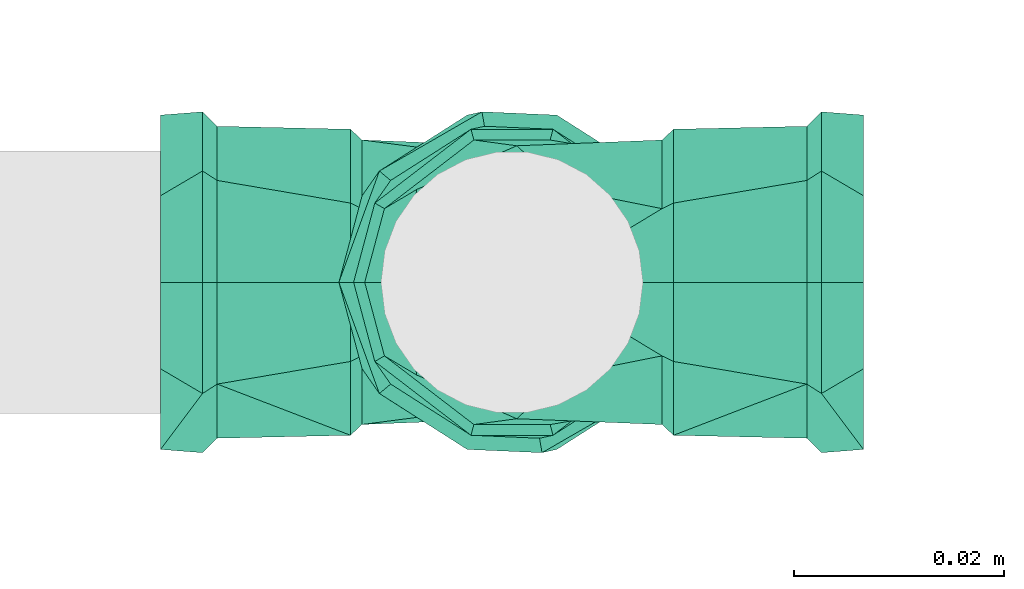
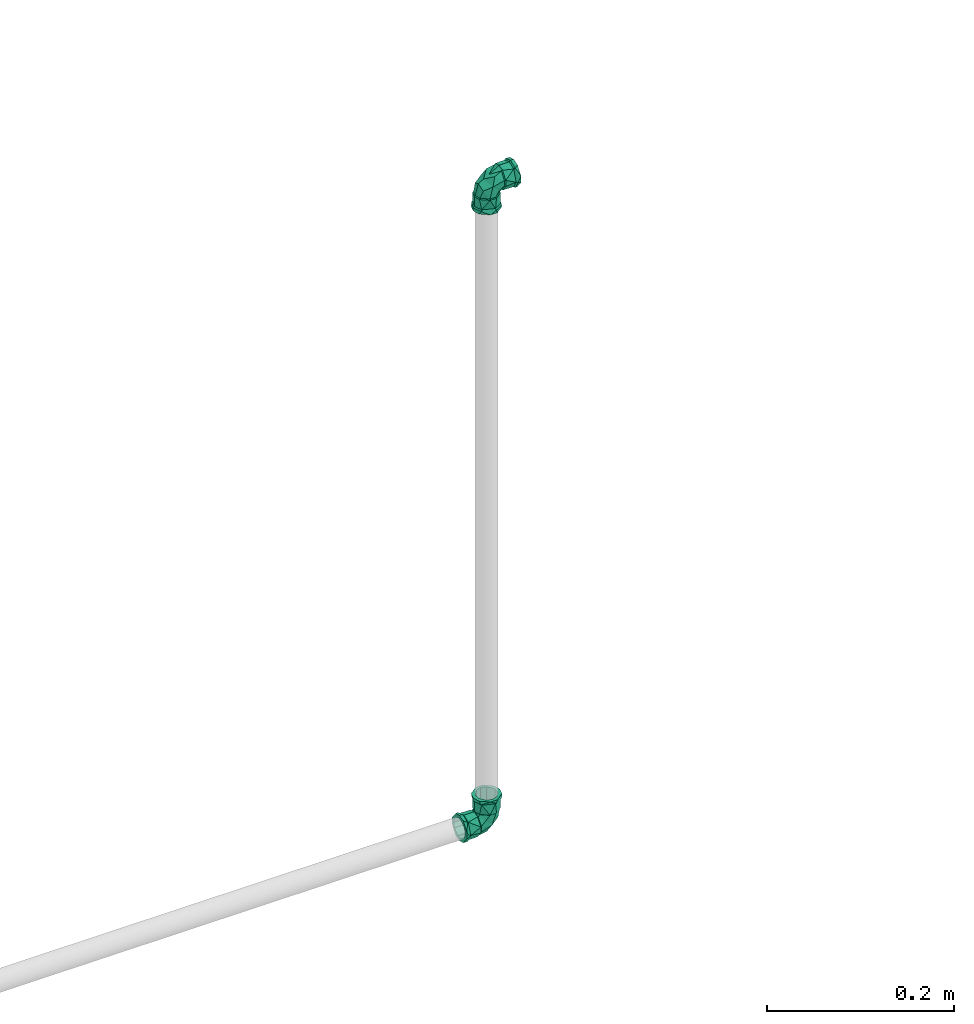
# One storey, part 338 of 589: 2 flow fittings.
"""IFC2X3 building model written with IfcOpenShell, lengths in millimetres."""

from ifc_helpers import new_model, entity, si_unit, converted_unit, derived_unit, direction, frame, origin, place, context, subcontext, project, spatial, faceted_brep, source, transform, mapped, material, type_object, type_shapes, element, save


model = new_model("IFC2X3")

# Units and contexts
model_context = context("Model", 3, precision=0.01, world=origin(), true_north=direction((6.123031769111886e-17, 1.0)))
body_context = subcontext(model_context, "Body", "Model", "MODEL_VIEW")
ifc_project = project(units=[si_unit("LENGTHUNIT", "METRE", prefix="MILLI"), si_unit("AREAUNIT", "SQUARE_METRE"), si_unit("VOLUMEUNIT", "CUBIC_METRE"), converted_unit("PLANEANGLEUNIT", "DEGREE", entity("IfcRatioMeasure", 0.017453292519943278), si_unit("PLANEANGLEUNIT", "RADIAN"), dimensions=[0, 0, 0, 0, 0, 0, 0]), si_unit("MASSUNIT", "GRAM", prefix="KILO"), derived_unit("MASSDENSITYUNIT", [(si_unit("MASSUNIT", "GRAM", prefix="KILO"), 1), (si_unit("LENGTHUNIT", "METRE"), -3)]), derived_unit("IONCONCENTRATIONUNIT", [(si_unit("MASSUNIT", "GRAM", prefix="KILO"), 1), (si_unit("LENGTHUNIT", "METRE"), -3)]), derived_unit("MOMENTOFINERTIAUNIT", [(si_unit("LENGTHUNIT", "METRE"), 4)]), si_unit("TIMEUNIT", "SECOND"), si_unit("FREQUENCYUNIT", "HERTZ"), si_unit("THERMODYNAMICTEMPERATUREUNIT", "DEGREE_CELSIUS"), derived_unit("THERMALTRANSMITTANCEUNIT", [(si_unit("MASSUNIT", "GRAM", prefix="KILO"), 1), (si_unit("THERMODYNAMICTEMPERATUREUNIT", "KELVIN"), -1), (si_unit("TIMEUNIT", "SECOND"), -3)]), derived_unit("THERMALCONDUCTANCEUNIT", [(si_unit("MASSUNIT", "GRAM", prefix="KILO"), 1), (si_unit("THERMODYNAMICTEMPERATUREUNIT", "KELVIN"), -1), (si_unit("TIMEUNIT", "SECOND"), -3), (si_unit("LENGTHUNIT", "METRE"), 1)]), derived_unit("VOLUMETRICFLOWRATEUNIT", [(si_unit("LENGTHUNIT", "METRE"), 3), (si_unit("TIMEUNIT", "SECOND"), -1)]), derived_unit("MASSFLOWRATEUNIT", [(si_unit("MASSUNIT", "GRAM", prefix="KILO"), 1), (si_unit("TIMEUNIT", "SECOND"), -1)]), derived_unit("ROTATIONALFREQUENCYUNIT", [(si_unit("TIMEUNIT", "SECOND"), -1)]), si_unit("ELECTRICCURRENTUNIT", "AMPERE"), si_unit("ELECTRICVOLTAGEUNIT", "VOLT"), si_unit("POWERUNIT", "WATT"), si_unit("FORCEUNIT", "NEWTON", prefix="KILO"), si_unit("ILLUMINANCEUNIT", "LUX"), si_unit("LUMINOUSFLUXUNIT", "LUMEN"), si_unit("LUMINOUSINTENSITYUNIT", "CANDELA"), derived_unit("USERDEFINED", [(si_unit("MASSUNIT", "GRAM", prefix="KILO"), -1), (si_unit("LENGTHUNIT", "METRE"), -2), (si_unit("TIMEUNIT", "SECOND"), 3), (si_unit("LUMINOUSFLUXUNIT", "LUMEN"), 1)]), derived_unit("USERDEFINED", [(si_unit("MASSUNIT", "GRAM", prefix="KILO"), 1), (si_unit("TIMEUNIT", "SECOND"), -3), (si_unit("LENGTHUNIT", "METRE"), 3), (si_unit("ELECTRICCURRENTUNIT", "AMPERE"), -2)]), derived_unit("SOUNDPOWERUNIT", [(si_unit("MASSUNIT", "GRAM", prefix="KILO"), 1), (si_unit("TIMEUNIT", "SECOND"), -3), (si_unit("LENGTHUNIT", "METRE"), 2)]), derived_unit("SOUNDPRESSUREUNIT", [(si_unit("MASSUNIT", "GRAM", prefix="KILO"), 1), (si_unit("LENGTHUNIT", "METRE"), -1), (si_unit("TIMEUNIT", "SECOND"), -2)]), derived_unit("LINEARVELOCITYUNIT", [(si_unit("LENGTHUNIT", "METRE"), 1), (si_unit("TIMEUNIT", "SECOND"), -1)]), si_unit("PRESSUREUNIT", "PASCAL"), derived_unit("USERDEFINED", [(si_unit("MASSUNIT", "GRAM", prefix="KILO"), 1), (si_unit("LENGTHUNIT", "METRE"), -2), (si_unit("TIMEUNIT", "SECOND"), -2)]), derived_unit("LINEARFORCEUNIT", [(si_unit("MASSUNIT", "GRAM", prefix="KILO"), 1), (si_unit("TIMEUNIT", "SECOND"), -2)]), derived_unit("PLANARFORCEUNIT", [(si_unit("MASSUNIT", "GRAM", prefix="KILO"), 1), (si_unit("LENGTHUNIT", "METRE"), -1), (si_unit("TIMEUNIT", "SECOND"), -2)]), derived_unit("SPECIFICHEATCAPACITYUNIT", [(si_unit("THERMODYNAMICTEMPERATUREUNIT", "KELVIN"), -1), (si_unit("LENGTHUNIT", "METRE"), 2), (si_unit("TIMEUNIT", "SECOND"), -2)]), derived_unit("HEATINGVALUEUNIT", [(si_unit("LENGTHUNIT", "METRE"), 2), (si_unit("TIMEUNIT", "SECOND"), -2)]), derived_unit("VAPORPERMEABILITYUNIT", [(si_unit("LENGTHUNIT", "METRE"), -1), (si_unit("TIMEUNIT", "SECOND"), 1)]), derived_unit("DYNAMICVISCOSITYUNIT", [(si_unit("MASSUNIT", "GRAM", prefix="KILO"), 1), (si_unit("TIMEUNIT", "SECOND"), -1), (si_unit("LENGTHUNIT", "METRE"), -1)]), derived_unit("THERMALEXPANSIONCOEFFICIENTUNIT", [(si_unit("THERMODYNAMICTEMPERATUREUNIT", "KELVIN"), -1)]), derived_unit("MODULUSOFELASTICITYUNIT", [(si_unit("MASSUNIT", "GRAM", prefix="KILO"), 1), (si_unit("LENGTHUNIT", "METRE"), -1), (si_unit("TIMEUNIT", "SECOND"), -2)]), derived_unit("ISOTHERMALMOISTURECAPACITYUNIT", [(si_unit("LENGTHUNIT", "METRE"), 3), (si_unit("MASSUNIT", "GRAM", prefix="KILO"), -1)]), derived_unit("MOISTUREDIFFUSIVITYUNIT", [(si_unit("TIMEUNIT", "SECOND"), -1), (si_unit("LENGTHUNIT", "METRE"), 2)])], contexts=[model_context])

# Site, building, storey
site_placement = place(None, origin())
site = spatial("IfcSite", under=ifc_project, at=site_placement, Name="Default", CompositionType="ELEMENT")
building_placement = place(site_placement, origin())
building = spatial("IfcBuilding", under=site, at=building_placement, CompositionType="ELEMENT")
storey_placement = place(building_placement, frame((0.0, 0.0, 100.0)))
storey = spatial("IfcBuildingStorey", under=building, at=storey_placement, Name="TÉRREO", CompositionType="ELEMENT", Elevation=100.0)

# Flow fittings
ifc_material = material(Name="PVC Marrom")
pipe_fitting_type = type_object("IfcPipeFittingType", Name="PVC Marrom Soldável_Joelho 45°_90°_Rodrigo MEP:Joelho", PredefinedType="NOTDEFINED", material=ifc_material)
shared_shape = source(origin(), body_context, "Body", "Brep", [
    faceted_brep([(3.908167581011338, 15.40000000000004, 14.585479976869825), (13.076983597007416, 15.40000000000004, 7.549999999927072), (15.099999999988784, 15.40000000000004, 0.0), (13.076983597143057, 15.40000000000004, -7.55000000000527), (3.9081675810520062, 15.40000000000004, -14.585479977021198), (-3.9081675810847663, 15.40000000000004, -14.585479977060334), (-13.076983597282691, 15.40000000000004, -7.550000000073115), (-15.100000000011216, 15.40000000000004, 0.0), (-13.076983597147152, 15.40000000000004, 7.549999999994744), (-3.908167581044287, 15.40000000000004, 14.585479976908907), (-3.633819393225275, 14.30000000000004, 13.561598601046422), (-12.158996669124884, 14.30000000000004, 7.0199999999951), (-14.040000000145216, 14.30000000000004, 0.0), (-12.158996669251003, 14.30000000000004, -7.020000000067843), (-3.6338193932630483, 14.30000000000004, -13.561598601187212), (3.6338193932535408, 14.30000000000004, -13.561598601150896), (12.158996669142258, 14.30000000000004, -7.020000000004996), (14.039999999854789, 14.30000000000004, 0.0), (12.158996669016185, 14.30000000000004, 7.0199999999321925), (3.6338193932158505, 14.30000000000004, 13.561598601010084)], [[[0, 1, 2, 3, 4, 5, 6, 7, 8, 9]], [[10, 11, 12, 13, 14, 15, 16, 17, 18, 19]], [[3, 17, 16]], [[4, 3, 16, 15]], [[3, 2, 17]], [[15, 14, 5, 4]], [[6, 5, 14, 13]], [[7, 13, 12]], [[7, 6, 13]], [[8, 12, 11]], [[9, 8, 11, 10]], [[8, 7, 12]], [[10, 19, 0, 9]], [[1, 0, 19, 18]], [[2, 18, 17]], [[2, 1, 18]]]),
    faceted_brep([(-15.399999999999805, 3.908167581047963, 14.585479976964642), (-15.399999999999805, 13.076983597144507, 7.549999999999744), (-15.399999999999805, 15.100000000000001, 0.0), (-15.399999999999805, 13.076983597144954, -7.54999999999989), (-15.399999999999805, 3.9081675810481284, -14.58547997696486), (-15.399999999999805, -3.9081675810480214, -14.585479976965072), (-15.399999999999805, -13.0769835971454, -7.550000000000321), (-15.399999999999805, -15.099999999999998, 0.0), (-15.399999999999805, -13.076983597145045, 7.550000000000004), (-15.399999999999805, -3.908167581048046, 14.585479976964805), (-14.299999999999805, 12.158996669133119, 7.019999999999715), (-14.299999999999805, 3.6338193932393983, 13.561598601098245), (-14.299999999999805, -3.633819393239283, 13.56159860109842), (-14.299999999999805, -12.15899666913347, 7.020000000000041), (-14.299999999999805, -14.040000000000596, 0.0), (-14.299999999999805, -12.158996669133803, -7.020000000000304), (-14.299999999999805, -3.63381939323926, -13.561598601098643), (-14.299999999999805, 3.6338193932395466, -13.56159860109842), (-14.299999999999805, 12.158996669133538, -7.019999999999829), (-14.299999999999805, 14.03999999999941, 0.0)], [[[0, 1, 2, 3, 4, 5, 6, 7, 8, 9]], [[10, 11, 12, 13, 14, 15, 16, 17, 18, 19]], [[3, 2, 19, 18]], [[4, 3, 18, 17]], [[17, 16, 5, 4]], [[6, 5, 16, 15]], [[7, 6, 15, 14]], [[8, 7, 14, 13]], [[9, 8, 13, 12]], [[12, 11, 0, 9]], [[1, 0, 11, 10]], [[2, 1, 10, 19]]]),
    faceted_brep([(-33.4999999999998, -4.2705142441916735, -15.937776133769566), (-33.4999999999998, -6.250000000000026, -10.825317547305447), (-33.4999999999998, 0.0, -12.5), (-33.4999999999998, -14.289419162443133, -8.25000000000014), (-33.4999999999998, 4.270514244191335, -15.937776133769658), (-33.4999999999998, -12.074072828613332, -3.23523806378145), (-33.4999999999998, -16.499999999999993, 0.0), (-33.4999999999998, -12.074072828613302, 3.2352380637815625), (-33.4999999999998, -14.289419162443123, 8.249999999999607), (-33.4999999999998, -6.249999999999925, 10.825317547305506), (-33.4999999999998, -4.27051424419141, 15.937776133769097), (-33.4999999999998, 0.0, 12.5), (-33.4999999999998, 4.270514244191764, 15.937776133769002), (-33.4999999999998, 6.249999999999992, 10.825317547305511), (-33.4999999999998, 14.28941916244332, 8.249999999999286), (-33.4999999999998, 12.074072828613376, 3.2352380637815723), (-33.4999999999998, 16.500000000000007, 0.0), (-33.4999999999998, 12.074072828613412, -3.235238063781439), (-33.4999999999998, 14.289419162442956, -8.250000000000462), (-33.4999999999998, 6.250000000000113, -10.82531754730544), (-29.499999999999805, 16.5, 0.0), (-29.500000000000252, 12.639142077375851, 10.606700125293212), (-29.50000000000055, 2.8633833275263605, 16.249647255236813), (-29.50000000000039, -12.64180232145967, 10.603529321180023), (-29.499999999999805, -16.499999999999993, 0.0), (-29.500000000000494, -4.889209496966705, 13.426588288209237), (-29.49999999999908, -12.641802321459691, -10.603529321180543), (-29.49999999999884, -2.8674593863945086, -16.24892847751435), (-29.499999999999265, 12.639142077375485, -10.606700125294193), (-29.499999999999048, 4.885841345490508, -13.427814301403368), (-28.099999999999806, -15.099999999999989, 0.0), (-28.10000000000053, -11.56916454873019, 9.703835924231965), (-28.100000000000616, -4.474367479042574, 12.287362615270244), (-28.1000000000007, 2.6204295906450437, 14.870889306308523), (-28.100000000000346, 11.566730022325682, 9.706737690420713), (-28.09999999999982, 15.099999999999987, 0.0), (-28.099999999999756, 11.566730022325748, -9.706737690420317), (-28.09999999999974, 4.4712851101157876, -12.28848460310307), (-28.09999999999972, -2.6241598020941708, -14.870231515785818), (-28.09999999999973, -11.569164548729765, -9.703835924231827), (-15.399999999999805, 0.0, -12.5), (-15.399999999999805, -6.250000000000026, -10.825317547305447), (-15.399999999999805, -3.908167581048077, -14.585479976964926), (-15.399999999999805, 3.9081675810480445, -14.585479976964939), (-15.399999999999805, 6.250000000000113, -10.82531754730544), (-15.399999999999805, -13.076983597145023, -7.549999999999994), (-15.399999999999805, -12.074072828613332, -3.23523806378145), (-15.399999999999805, -15.099999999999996, 0.0), (-15.399999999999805, -12.074072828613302, 3.2352380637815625), (-15.399999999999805, -13.076983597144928, 7.550000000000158), (-15.399999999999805, -6.249999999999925, 10.825317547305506), (-15.399999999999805, -3.9081675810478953, 14.585479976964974), (-15.399999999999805, 0.0, 12.5), (-15.399999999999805, 3.9081675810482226, 14.58547997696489), (-15.399999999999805, 6.249999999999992, 10.825317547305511), (-15.399999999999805, 13.076983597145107, 7.549999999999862), (-15.399999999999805, 12.074072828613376, 3.2352380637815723), (-15.399999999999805, 15.100000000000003, 0.0), (-15.399999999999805, 12.074072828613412, -3.235238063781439), (-15.399999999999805, 13.076983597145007, -7.550000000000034)], [[[0, 1, 2]], [[1, 0, 3]], [[2, 4, 0]], [[3, 5, 1]], [[3, 6, 5]], [[5, 6, 7]], [[8, 7, 6]], [[7, 8, 9]], [[10, 9, 8]], [[9, 10, 11]], [[11, 10, 12]], [[12, 13, 11]], [[14, 13, 12]], [[13, 14, 15]], [[16, 15, 14]], [[16, 17, 15]], [[18, 17, 16]], [[19, 17, 18]], [[19, 18, 4]], [[4, 2, 19]], [[16, 14, 20]], [[14, 21, 20]], [[21, 14, 12]], [[21, 12, 22]], [[23, 10, 8]], [[24, 8, 6]], [[10, 23, 25, 22]], [[23, 8, 24]], [[10, 22, 12]], [[6, 3, 24]], [[3, 26, 24]], [[26, 3, 0]], [[26, 0, 27]], [[28, 4, 18]], [[20, 18, 16]], [[4, 28, 29, 27]], [[28, 18, 20]], [[4, 27, 0]], [[30, 31, 23, 24]], [[31, 32, 33, 22, 25, 23]], [[34, 35, 20, 21]], [[34, 21, 22, 33]], [[35, 36, 28, 20]], [[36, 37, 38, 27, 29, 28]], [[39, 30, 24, 26]], [[39, 26, 27, 38]], [[40, 41, 42]], [[42, 43, 40]], [[44, 40, 43]], [[45, 42, 41]], [[41, 46, 45]], [[46, 47, 45]], [[48, 47, 46]], [[47, 48, 49]], [[50, 49, 48]], [[49, 50, 51]], [[52, 51, 50]], [[53, 51, 52]], [[52, 54, 53]], [[53, 54, 55]], [[56, 55, 54]], [[55, 56, 57]], [[56, 58, 57]], [[59, 58, 44]], [[57, 58, 59]], [[43, 59, 44]], [[35, 34, 55]], [[35, 55, 57]], [[55, 34, 53]], [[34, 33, 53]], [[51, 33, 32, 31]], [[49, 31, 30]], [[31, 49, 51]], [[49, 30, 47]], [[33, 51, 53]], [[30, 39, 45]], [[30, 45, 47]], [[45, 39, 42]], [[39, 38, 42]], [[43, 38, 37, 36]], [[59, 36, 35]], [[36, 59, 43]], [[59, 35, 57]], [[38, 43, 42]], [[9, 11, 52, 50]], [[7, 9, 50, 48]], [[48, 46, 5, 7]], [[1, 5, 46, 41]], [[2, 1, 41, 40]], [[19, 2, 40, 44]], [[17, 19, 44, 58]], [[58, 56, 15, 17]], [[13, 15, 56, 54]], [[11, 13, 54, 52]]]),
    faceted_brep([(-14.299999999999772, -3.6338193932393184, -13.561598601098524), (-14.299999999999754, -12.158996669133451, -7.020000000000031), (-14.29999999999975, -14.039999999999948, 0.0), (-14.299999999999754, -12.158996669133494, 7.019999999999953), (-14.299999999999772, -3.6338193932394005, 13.561598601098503), (-14.299999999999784, 3.633819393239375, 13.561598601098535), (-14.299999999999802, 12.158996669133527, 7.0200000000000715), (-14.299999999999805, 14.04000000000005, 0.0), (-14.299999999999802, 12.158996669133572, -7.019999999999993), (-14.299999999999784, 3.63381939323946, -13.561598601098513), (3.633819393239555, 14.29999999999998, -13.561598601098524), (-3.633819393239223, 14.300000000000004, -13.561598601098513), (-12.158996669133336, 14.300000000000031, -7.019999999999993), (-14.039999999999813, 14.300000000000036, 0.0), (-12.158996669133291, 14.300000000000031, 7.0200000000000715), (-3.6338193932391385, 14.300000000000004, 13.561598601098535), (3.6338193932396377, 14.29999999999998, 13.561598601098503), (12.158996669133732, 14.299999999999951, 7.019999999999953), (14.040000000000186, 14.299999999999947, 0.0), (12.158996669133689, 14.299999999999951, -7.020000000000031), (-0.45476175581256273, 0.4547603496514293, 13.009299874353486), (-4.991226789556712, -9.102895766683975, 8.866254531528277), (-2.689013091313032, -7.336393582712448, 0.0), (3.7770734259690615, -3.6031967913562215, 0.0), (9.09033094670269, 4.905775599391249, 8.841582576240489), (10.243159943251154, 0.13000000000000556, 0.0), (-14.116152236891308, 14.116152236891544, 0.0), (-8.296884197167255, 8.29688403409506, 12.78130953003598), (-0.454761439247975, 0.45476027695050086, -13.009299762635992), (-8.296884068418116, 8.296883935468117, -12.78130960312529), (9.090330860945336, 4.90577564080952, -8.84158269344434), (-4.991226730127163, -9.10289574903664, -8.866254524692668)], [[[0, 1, 2, 3, 4, 5, 6, 7, 8, 9]], [[10, 11, 12, 13, 14, 15, 16, 17, 18, 19]], [[4, 20, 5]], [[21, 3, 22]], [[20, 4, 21]], [[21, 22, 23]], [[17, 24, 25]], [[26, 6, 14]], [[23, 20, 21]], [[26, 7, 6]], [[6, 5, 27]], [[3, 2, 22]], [[20, 23, 24]], [[25, 18, 17]], [[20, 27, 5]], [[16, 20, 24]], [[17, 16, 24]], [[6, 27, 14]], [[26, 14, 13]], [[21, 4, 3]], [[27, 15, 14]], [[27, 20, 15]], [[23, 25, 24]], [[15, 20, 16]], [[8, 7, 26]], [[28, 29, 11]], [[28, 10, 30]], [[8, 12, 29]], [[31, 22, 1]], [[31, 23, 22]], [[28, 9, 29]], [[19, 30, 10]], [[0, 28, 31]], [[1, 22, 2]], [[8, 26, 12]], [[12, 11, 29]], [[8, 29, 9]], [[31, 1, 0]], [[10, 28, 11]], [[30, 19, 25]], [[0, 9, 28]], [[19, 18, 25]], [[25, 23, 30]], [[23, 31, 28]], [[30, 23, 28]], [[12, 26, 13]]]),
    faceted_brep([(0.0, 15.40000000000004, -12.5), (-6.249999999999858, 15.40000000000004, -10.825317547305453), (-3.908167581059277, 15.40000000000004, -14.585479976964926), (3.9081675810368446, 15.40000000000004, -14.585479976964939), (6.250000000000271, 15.40000000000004, -10.82531754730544), (-13.076983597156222, 15.40000000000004, -7.549999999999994), (-12.07407282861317, 15.40000000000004, -3.235238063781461), (-15.100000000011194, 15.40000000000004, 0.0), (-12.074072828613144, 15.40000000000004, 3.2352380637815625), (-13.076983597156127, 15.40000000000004, 7.550000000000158), (-6.249999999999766, 15.40000000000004, 10.825317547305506), (-3.9081675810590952, 15.40000000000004, 14.585479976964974), (0.0, 15.40000000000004, 12.5), (3.9081675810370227, 15.40000000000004, 14.58547997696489), (6.250000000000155, 15.40000000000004, 10.825317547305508), (13.076983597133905, 15.40000000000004, 7.549999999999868), (12.074072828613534, 15.40000000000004, 3.2352380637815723), (15.099999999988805, 15.40000000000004, 0.0), (12.07407282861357, 15.40000000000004, -3.235238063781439), (13.07698359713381, 15.40000000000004, -7.550000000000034), (15.099999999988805, 28.10000000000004, 0.0), (11.56673002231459, 28.100000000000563, 9.706737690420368), (4.471285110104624, 28.10000000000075, 12.288484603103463), (-2.624159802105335, 28.100000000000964, 14.870231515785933), (-11.569164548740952, 28.10000000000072, 9.703835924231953), (-15.100000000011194, 28.10000000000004, 0.0), (-11.569164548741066, 28.10000000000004, -9.703835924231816), (-4.474367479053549, 28.10000000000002, -12.287362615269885), (2.6204295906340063, 28.099999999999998, -14.870889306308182), (11.566730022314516, 28.10000000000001, -9.706737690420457), (-12.639142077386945, 29.50000000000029, 10.606700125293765), (-16.50000000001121, 29.500000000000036, 0.0), (-2.8633833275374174, 29.50000000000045, 16.249647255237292), (12.641802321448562, 29.500000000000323, 10.603529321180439), (4.889209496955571, 29.500000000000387, 13.426588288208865), (16.499999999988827, 29.50000000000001, 0.0), (12.64180232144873, 29.500000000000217, -10.603529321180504), (2.867459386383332, 29.500000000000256, -16.24892847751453), (-12.639142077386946, 29.500000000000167, -10.606700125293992), (-4.885841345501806, 29.500000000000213, -13.427814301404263), (-4.270514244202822, 33.50000000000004, -15.937776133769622), (-6.249999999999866, 33.50000000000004, -10.825317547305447), (0.0, 33.50000000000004, -12.5), (-14.289419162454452, 33.50000000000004, -8.249999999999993), (4.270514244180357, 33.50000000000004, -15.937776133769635), (-12.074072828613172, 33.50000000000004, -3.23523806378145), (-16.50000000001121, 33.50000000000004, 0.0), (-12.074072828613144, 33.50000000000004, 3.2352380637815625), (-14.28941916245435, 33.50000000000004, 8.250000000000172), (-6.2499999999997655, 33.50000000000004, 10.825317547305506), (-4.270514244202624, 33.50000000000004, 15.937776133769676), (0.0, 33.50000000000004, 12.5), (4.270514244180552, 33.50000000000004, 15.937776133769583), (6.250000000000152, 33.50000000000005, 10.825317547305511), (14.289419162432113, 33.50000000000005, 8.249999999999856), (12.074072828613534, 33.50000000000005, 3.2352380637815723), (16.49999999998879, 33.50000000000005, 0.0), (12.07407282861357, 33.50000000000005, -3.235238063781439), (14.289419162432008, 33.50000000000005, -8.250000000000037), (6.250000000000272, 33.50000000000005, -10.82531754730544)], [[[0, 1, 2]], [[2, 3, 0]], [[4, 0, 3]], [[5, 2, 1]], [[1, 6, 5]], [[6, 7, 5]], [[8, 7, 6]], [[7, 8, 9]], [[10, 9, 8]], [[9, 10, 11]], [[12, 11, 10]], [[13, 11, 12]], [[12, 14, 13]], [[13, 14, 15]], [[16, 15, 14]], [[15, 16, 17]], [[16, 18, 17]], [[19, 18, 4]], [[17, 18, 19]], [[3, 19, 4]], [[20, 21, 15]], [[20, 15, 17]], [[15, 21, 13]], [[13, 21, 22, 23]], [[11, 23, 24]], [[9, 24, 25]], [[24, 9, 11]], [[9, 25, 7]], [[23, 11, 13]], [[25, 26, 5]], [[25, 5, 7]], [[5, 26, 2]], [[2, 26, 27, 28]], [[3, 28, 29]], [[19, 29, 20]], [[29, 19, 3]], [[19, 20, 17]], [[28, 3, 2]], [[24, 23, 30]], [[25, 24, 31]], [[31, 24, 30]], [[23, 32, 30]], [[21, 20, 33]], [[21, 33, 34]], [[22, 32, 23]], [[35, 33, 20]], [[32, 22, 34]], [[22, 21, 34]], [[20, 29, 36]], [[36, 35, 20]], [[37, 36, 29]], [[38, 39, 27]], [[29, 28, 37]], [[26, 25, 31]], [[38, 27, 26]], [[38, 26, 31]], [[28, 39, 37]], [[39, 28, 27]], [[40, 41, 42]], [[41, 40, 43]], [[42, 44, 40]], [[43, 45, 41]], [[43, 46, 45]], [[45, 46, 47]], [[48, 47, 46]], [[47, 48, 49]], [[50, 49, 48]], [[49, 50, 51]], [[51, 50, 52]], [[52, 53, 51]], [[54, 53, 52]], [[53, 54, 55]], [[56, 55, 54]], [[56, 57, 55]], [[58, 57, 56]], [[59, 57, 58]], [[59, 58, 44]], [[44, 42, 59]], [[56, 54, 35]], [[54, 33, 35]], [[33, 54, 52]], [[52, 32, 34, 33]], [[30, 50, 48]], [[31, 48, 46]], [[50, 30, 32]], [[30, 48, 31]], [[50, 32, 52]], [[46, 43, 31]], [[43, 38, 31]], [[38, 43, 40]], [[40, 37, 39, 38]], [[36, 44, 58]], [[35, 58, 56]], [[44, 36, 37]], [[36, 58, 35]], [[44, 37, 40]], [[49, 51, 12, 10]], [[47, 49, 10, 8]], [[8, 6, 45, 47]], [[41, 45, 6, 1]], [[42, 41, 1, 0]], [[59, 42, 0, 4]], [[57, 59, 4, 18]], [[18, 16, 55, 57]], [[53, 55, 16, 14]], [[51, 53, 14, 12]]]),
])
type_shapes(pipe_fitting_type, [shared_shape])
for number, where, z_axis, x_axis in (
    (1, (3266.9385118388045, -9748.296034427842, 3820.0), (0.0, -1.0, 0.0), (-1.0, 0.0, 0.0)),
    (2, (3266.938511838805, -9748.296034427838, 2984.899999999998), (0.0, 1.0, 0.0), (0.0, 0.0, -1.0)),
):
    element("IfcFlowFitting", number, at=place(storey_placement, frame(where, z_axis=z_axis, x_axis=x_axis)), inside=storey, type_object=pipe_fitting_type, material=ifc_material, Name="PVC Marrom Soldável_Joelho 45°_90°_Rodrigo MEP:Joelho", ObjectType="PVC Marrom Soldável_Joelho 45°_90°_Rodrigo MEP:Joelho", context=body_context, shape_type="MappedRepresentation", body=[
        mapped(shared_shape, transform((0.0, 0.0, 0.0), scale=1.0)),
    ])

save(model, "model.ifc")
